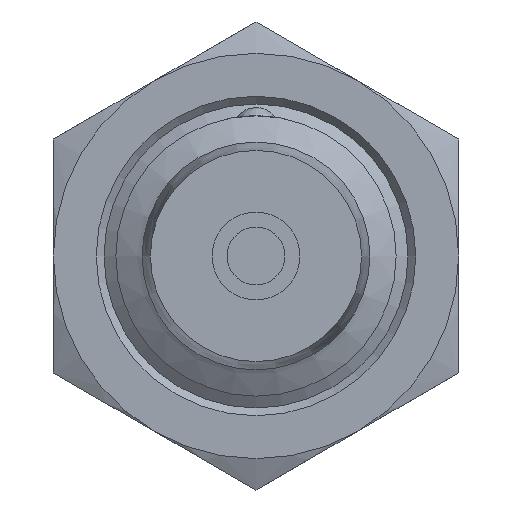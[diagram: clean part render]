
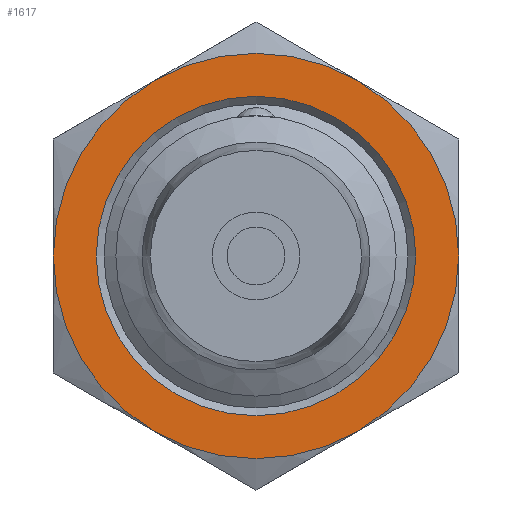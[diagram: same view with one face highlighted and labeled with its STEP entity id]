
A CAD part, front view. The second image highlights one B-rep face of the part: STEP entity #1617.
In plain terms, the highlighted planar face has unit normal (0, -1, 0).
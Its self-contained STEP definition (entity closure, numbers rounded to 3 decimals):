
#921=CARTESIAN_POINT('',(8.193,40.,4.73));
#922=VERTEX_POINT('',#921);
#923=CARTESIAN_POINT('',(0.,40.,0.));
#924=DIRECTION('',(0.0,-1.,0.0));
#925=DIRECTION('',(-0.866,0.0,-0.5));
#926=AXIS2_PLACEMENT_3D('',#923,#924,#925);
#927=CIRCLE('',#926,9.46);
#928=EDGE_CURVE('',#922,#922,#927,.T.);
#1229=CARTESIAN_POINT('',(-6.,40.,10.392));
#1230=VERTEX_POINT('',#1229);
#1283=CARTESIAN_POINT('',(-12.,40.,0.));
#1284=VERTEX_POINT('',#1283);
#1330=CARTESIAN_POINT('',(-6.,40.,-10.392));
#1331=VERTEX_POINT('',#1330);
#1369=CARTESIAN_POINT('',(6.,40.,-10.392));
#1370=VERTEX_POINT('',#1369);
#1384=CARTESIAN_POINT('',(12.,40.,0.));
#1385=VERTEX_POINT('',#1384);
#1399=CARTESIAN_POINT('',(0.,40.,0.));
#1400=DIRECTION('',(0.,-1.0,0.));
#1401=DIRECTION('',(-0.866,0.,-0.5));
#1402=AXIS2_PLACEMENT_3D('',#1399,#1400,#1401);
#1403=CIRCLE('',#1402,12.);
#1404=EDGE_CURVE('',#1370,#1385,#1403,.T.);
#1428=CARTESIAN_POINT('',(0.,40.,0.));
#1429=DIRECTION('',(0.,-1.0,0.));
#1430=DIRECTION('',(-0.866,0.,-0.5));
#1431=AXIS2_PLACEMENT_3D('',#1428,#1429,#1430);
#1432=CIRCLE('',#1431,12.);
#1433=EDGE_CURVE('',#1331,#1370,#1432,.T.);
#1445=CARTESIAN_POINT('',(0.,40.,0.));
#1446=DIRECTION('',(0.,-1.0,0.));
#1447=DIRECTION('',(-0.866,0.,-0.5));
#1448=AXIS2_PLACEMENT_3D('',#1445,#1446,#1447);
#1449=CIRCLE('',#1448,12.);
#1450=EDGE_CURVE('',#1284,#1331,#1449,.T.);
#1461=CARTESIAN_POINT('',(0.,40.,0.));
#1462=DIRECTION('',(0.,-1.0,0.));
#1463=DIRECTION('',(-0.866,0.,-0.5));
#1464=AXIS2_PLACEMENT_3D('',#1461,#1462,#1463);
#1465=CIRCLE('',#1464,12.);
#1466=EDGE_CURVE('',#1230,#1284,#1465,.T.);
#1478=CARTESIAN_POINT('',(6.,40.,10.392));
#1479=VERTEX_POINT('',#1478);
#1480=CARTESIAN_POINT('',(0.,40.,0.));
#1481=DIRECTION('',(0.,-1.0,0.));
#1482=DIRECTION('',(-0.866,0.,-0.5));
#1483=AXIS2_PLACEMENT_3D('',#1480,#1481,#1482);
#1484=CIRCLE('',#1483,12.);
#1485=EDGE_CURVE('',#1479,#1230,#1484,.T.);
#1523=CARTESIAN_POINT('',(0.,40.,0.));
#1524=DIRECTION('',(0.,-1.0,0.));
#1525=DIRECTION('',(-0.866,0.,-0.5));
#1526=AXIS2_PLACEMENT_3D('',#1523,#1524,#1525);
#1527=CIRCLE('',#1526,12.);
#1528=EDGE_CURVE('',#1385,#1479,#1527,.T.);
#1601=CARTESIAN_POINT('',(0.,40.,0.));
#1602=DIRECTION('',(0.0,-1.0,0.0));
#1603=DIRECTION('',(-0.866,0.0,-0.5));
#1604=AXIS2_PLACEMENT_3D('',#1601,#1602,#1603);
#1605=PLANE('',#1604);
#1606=ORIENTED_EDGE('',*,*,#1528,.T.);
#1607=ORIENTED_EDGE('',*,*,#1485,.T.);
#1608=ORIENTED_EDGE('',*,*,#1466,.T.);
#1609=ORIENTED_EDGE('',*,*,#1450,.T.);
#1610=ORIENTED_EDGE('',*,*,#1433,.T.);
#1611=ORIENTED_EDGE('',*,*,#1404,.T.);
#1612=EDGE_LOOP('',(#1606,#1607,#1608,#1609,#1610,#1611));
#1613=FACE_OUTER_BOUND('',#1612,.T.);
#1614=ORIENTED_EDGE('',*,*,#928,.F.);
#1615=EDGE_LOOP('',(#1614));
#1616=FACE_BOUND('',#1615,.T.);
#1617=ADVANCED_FACE('',(#1613,#1616),#1605,.T.);
